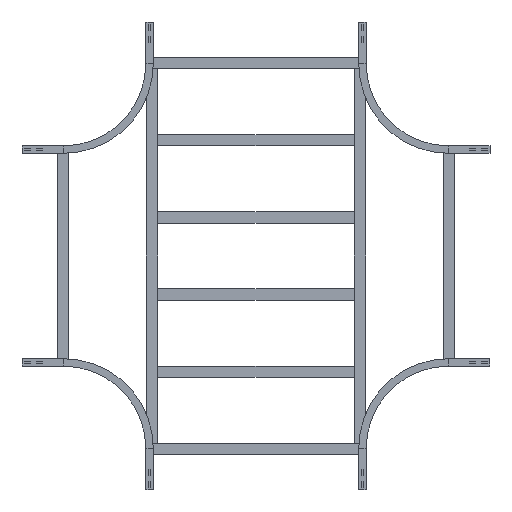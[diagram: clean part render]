
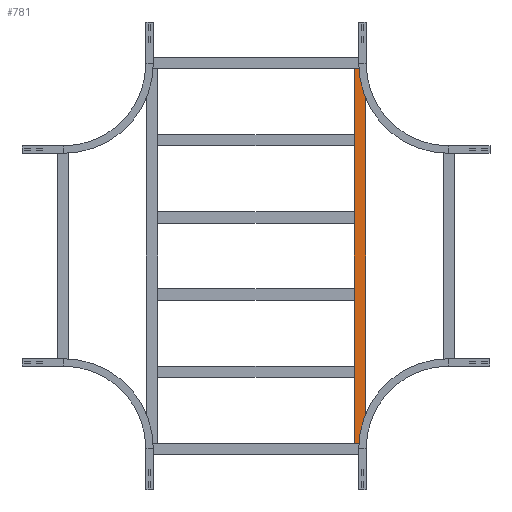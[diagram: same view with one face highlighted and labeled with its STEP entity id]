
A CAD part, front view. The second image highlights one B-rep face of the part: STEP entity #781.
In plain terms, the highlighted planar face has unit normal (0, -1, 0).
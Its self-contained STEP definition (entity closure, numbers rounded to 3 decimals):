
#26 = LINE ( 'NONE', #585, #341 ) ;
#44 = CARTESIAN_POINT ( 'NONE',  ( 679.75, 0., -20.25 ) ) ;
#213 = VECTOR ( 'NONE', #2400, 1000. ) ;
#215 = CARTESIAN_POINT ( 'NONE',  ( -679.75, 0., 20.25 ) ) ;
#241 = DIRECTION ( 'NONE',  ( 0., 0., -1. ) ) ;
#249 = CARTESIAN_POINT ( 'NONE',  ( -679.75, 0., -20.25 ) ) ;
#255 = VECTOR ( 'NONE', #241, 1000. ) ;
#331 = EDGE_CURVE ( 'NONE', #1150, #1314, #1554, .T. ) ;
#341 = VECTOR ( 'NONE', #1013, 1000. ) ;
#396 = ORIENTED_EDGE ( 'NONE', *, *, #477, .F. ) ;
#477 = EDGE_CURVE ( 'NONE', #1314, #2484, #1640, .T. ) ;
#585 = CARTESIAN_POINT ( 'NONE',  ( 679.75, 0., 20.25 ) ) ;
#626 = ORIENTED_EDGE ( 'NONE', *, *, #1616, .T. ) ;
#677 = PLANE ( 'NONE',  #1160 ) ;
#691 = ORIENTED_EDGE ( 'NONE', *, *, #331, .F. ) ;
#774 = CARTESIAN_POINT ( 'NONE',  ( 679.75, 0., 20.25 ) ) ;
#781 = ADVANCED_FACE ( 'NONE', ( #1736 ), #677, .F. ) ;
#804 = DIRECTION ( 'NONE',  ( 0., 0., -1. ) ) ;
#830 = VECTOR ( 'NONE', #804, 1000. ) ;
#871 = EDGE_CURVE ( 'NONE', #901, #2484, #2194, .T. ) ;
#882 = CARTESIAN_POINT ( 'NONE',  ( 679.75, 0., -20.25 ) ) ;
#901 = VERTEX_POINT ( 'NONE', #2144 ) ;
#1013 = DIRECTION ( 'NONE',  ( -1., 0., 0. ) ) ;
#1150 = VERTEX_POINT ( 'NONE', #1558 ) ;
#1160 = AXIS2_PLACEMENT_3D ( 'NONE', #774, #1550, #2117 ) ;
#1314 = VERTEX_POINT ( 'NONE', #882 ) ;
#1345 = CARTESIAN_POINT ( 'NONE',  ( 679.75, 0., 20.25 ) ) ;
#1550 = DIRECTION ( 'NONE',  ( 0., 1., 0. ) ) ;
#1554 = LINE ( 'NONE', #1345, #830 ) ;
#1558 = CARTESIAN_POINT ( 'NONE',  ( 679.75, 0., 20.25 ) ) ;
#1616 = EDGE_CURVE ( 'NONE', #1150, #901, #26, .T. ) ;
#1640 = LINE ( 'NONE', #44, #213 ) ;
#1736 = FACE_OUTER_BOUND ( 'NONE', #1787, .T. ) ;
#1787 = EDGE_LOOP ( 'NONE', ( #1890, #396, #691, #626 ) ) ;
#1890 = ORIENTED_EDGE ( 'NONE', *, *, #871, .T. ) ;
#2117 = DIRECTION ( 'NONE',  ( 0., 0., 1. ) ) ;
#2144 = CARTESIAN_POINT ( 'NONE',  ( -679.75, 0., 20.25 ) ) ;
#2194 = LINE ( 'NONE', #215, #255 ) ;
#2400 = DIRECTION ( 'NONE',  ( -1., 0., 0. ) ) ;
#2484 = VERTEX_POINT ( 'NONE', #249 ) ;
